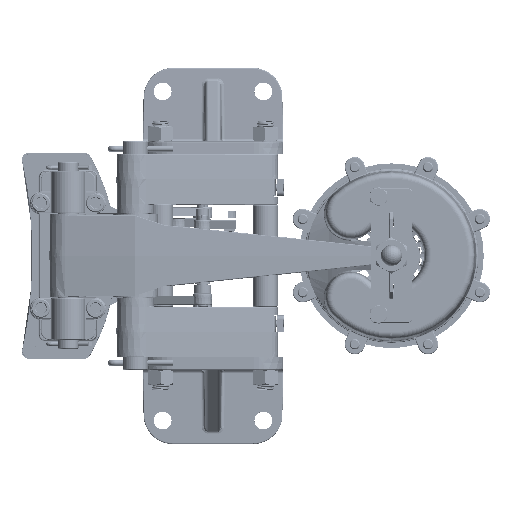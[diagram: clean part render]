
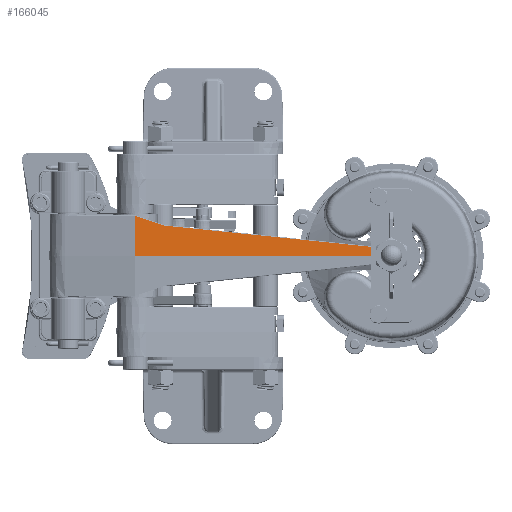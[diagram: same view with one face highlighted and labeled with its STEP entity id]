
A CAD part, top view. The second image highlights one B-rep face of the part: STEP entity #166045.
In plain terms, the highlighted planar face has unit normal (0.048, 0.018, 0.999).
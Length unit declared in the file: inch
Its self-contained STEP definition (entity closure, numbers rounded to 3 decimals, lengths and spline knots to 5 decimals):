
#9020 = CARTESIAN_POINT ( 'NONE',  ( 0.6036, 0., 3.26282 ) ) ;
#9341 = VERTEX_POINT ( 'NONE', #170723 ) ;
#18807 = CARTESIAN_POINT ( 'NONE',  ( 0.55923, 1.17928, 3.24433 ) ) ;
#22084 = VERTEX_POINT ( 'NONE', #18807 ) ;
#22246 = LINE ( 'NONE', #9020, #56659 ) ;
#22788 = CARTESIAN_POINT ( 'NONE',  ( 7.8689, 0.23036, 2.91252 ) ) ;
#28037 = LINE ( 'NONE', #174148, #46498 ) ;
#33087 = CARTESIAN_POINT ( 'NONE',  ( 0.95319, 1.04722, 3.22786 ) ) ;
#36580 = ORIENTED_EDGE ( 'NONE', *, *, #52818, .T. ) ;
#40672 = EDGE_CURVE ( 'NONE', #172650, #22084, #51793, .T. ) ;
#40945 = EDGE_CURVE ( 'NONE', #9341, #22084, #72504, .T. ) ;
#46274 = EDGE_CURVE ( 'NONE', #73386, #9341, #28037, .T. ) ;
#46498 = VECTOR ( 'NONE', #72203, 39.37008 ) ;
#46641 = CARTESIAN_POINT ( 'NONE',  ( 0.6036, 0., 3.26282 ) ) ;
#47159 = VECTOR ( 'NONE', #111903, 39.37008 ) ;
#49440 = EDGE_CURVE ( 'NONE', #81398, #172650, #22246, .T. ) ;
#51793 = LINE ( 'NONE', #140559, #47159 ) ;
#52505 = EDGE_CURVE ( 'NONE', #81398, #125478, #148901, .T. ) ;
#52818 = EDGE_CURVE ( 'NONE', #125478, #73386, #120656, .T. ) ;
#56659 = VECTOR ( 'NONE', #99752, 39.37008 ) ;
#58169 = DIRECTION ( 'NONE',  ( 0., 1., -0.017 ) ) ;
#61339 = DIRECTION ( 'NONE',  ( -0.999, 0., 0.048 ) ) ;
#63421 = CARTESIAN_POINT ( 'NONE',  ( 7.8689, 0.23036, 2.91252 ) ) ;
#72203 = DIRECTION ( 'NONE',  ( -0.994, 0.102, 0.046 ) ) ;
#72504 = LINE ( 'NONE', #33087, #184241 ) ;
#73386 = VERTEX_POINT ( 'NONE', #63421 ) ;
#75398 = PLANE ( 'NONE',  #104148 ) ;
#78867 = CARTESIAN_POINT ( 'NONE',  ( 0.55815, 0., 3.26499 ) ) ;
#81398 = VERTEX_POINT ( 'NONE', #137313 ) ;
#87877 = ORIENTED_EDGE ( 'NONE', *, *, #40672, .F. ) ;
#95051 = CARTESIAN_POINT ( 'NONE',  ( 7.8689, 0.23035, 2.91252 ) ) ;
#99752 = DIRECTION ( 'NONE',  ( -0.999, 0., 0.048 ) ) ;
#104148 = AXIS2_PLACEMENT_3D ( 'NONE', #46641, #148803, #61339 ) ;
#106866 = ORIENTED_EDGE ( 'NONE', *, *, #52505, .T. ) ;
#111903 = DIRECTION ( 'NONE',  ( 0.001, 1., -0.018 ) ) ;
#115643 = CARTESIAN_POINT ( 'NONE',  ( 7.86898, 0.00336, 2.91648 ) ) ;
#120656 =( BOUNDED_CURVE ( )  B_SPLINE_CURVE ( 3, ( #95051, #168428, #22788, #125195 ),
 .UNSPECIFIED., .F., .F. ) 
 B_SPLINE_CURVE_WITH_KNOTS ( ( 4, 4 ),
 ( 3.14157, 3.14224 ),
 .UNSPECIFIED. ) 
 CURVE ( )  GEOMETRIC_REPRESENTATION_ITEM ( )  RATIONAL_B_SPLINE_CURVE ( ( 1., 1., 1., 1. ) ) 
 REPRESENTATION_ITEM ( '' )  );
#125195 = CARTESIAN_POINT ( 'NONE',  ( 7.8689, 0.23036, 2.91252 ) ) ;
#125478 = VERTEX_POINT ( 'NONE', #131092 ) ;
#131092 = CARTESIAN_POINT ( 'NONE',  ( 7.8689, 0.23035, 2.91252 ) ) ;
#132600 = FACE_OUTER_BOUND ( 'NONE', #188726, .T. ) ;
#135343 = DIRECTION ( 'NONE',  ( -0.947, 0.318, 0.04 ) ) ;
#137313 = CARTESIAN_POINT ( 'NONE',  ( 7.86898, 0., 2.91654 ) ) ;
#140559 = CARTESIAN_POINT ( 'NONE',  ( 0.55815, 0.00022, 3.26499 ) ) ;
#143702 = ORIENTED_EDGE ( 'NONE', *, *, #40945, .T. ) ;
#145048 = ORIENTED_EDGE ( 'NONE', *, *, #49440, .F. ) ;
#148803 = DIRECTION ( 'NONE',  ( 0.048, 0.017, 0.999 ) ) ;
#148901 = LINE ( 'NONE', #115643, #187536 ) ;
#151072 = ORIENTED_EDGE ( 'NONE', *, *, #46274, .T. ) ;
#166045 = ADVANCED_FACE ( 'NONE', ( #132600 ), #75398, .T. ) ;
#168428 = CARTESIAN_POINT ( 'NONE',  ( 7.8689, 0.23035, 2.91252 ) ) ;
#170723 = CARTESIAN_POINT ( 'NONE',  ( 1.40524, 0.89568, 3.20896 ) ) ;
#172650 = VERTEX_POINT ( 'NONE', #78867 ) ;
#174148 = CARTESIAN_POINT ( 'NONE',  ( 0.70225, 0.96804, 3.2412 ) ) ;
#184241 = VECTOR ( 'NONE', #135343, 39.37008 ) ;
#187536 = VECTOR ( 'NONE', #58169, 39.37008 ) ;
#188726 = EDGE_LOOP ( 'NONE', ( #151072, #143702, #87877, #145048, #106866, #36580 ) ) ;
